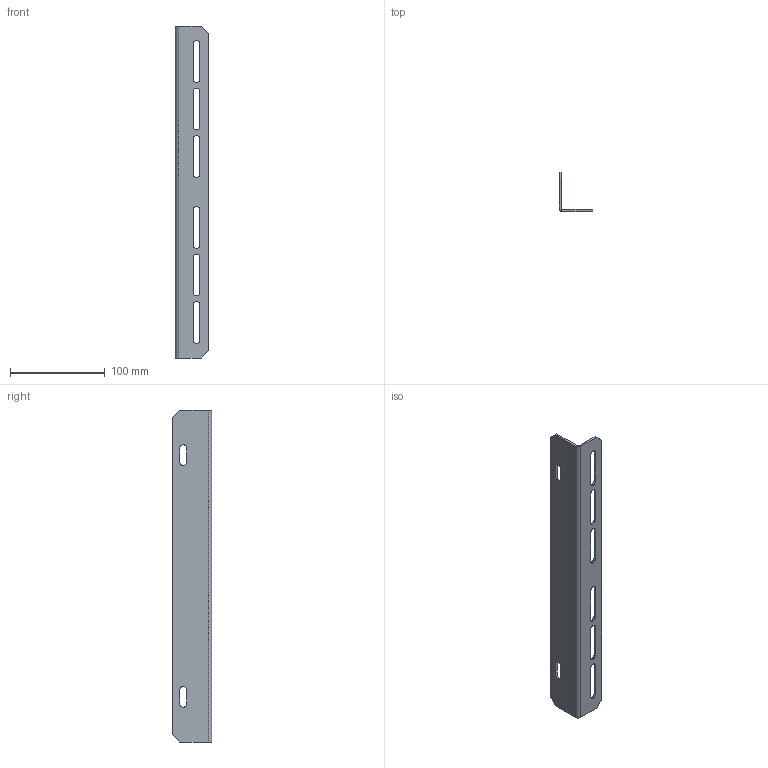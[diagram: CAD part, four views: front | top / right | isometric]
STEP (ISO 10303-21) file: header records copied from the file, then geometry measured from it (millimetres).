
FILE_DESCRIPTION (( 'STEP AP203' ), '1' );
FILE_NAME ('MG 35.03 IL Ðåéêà îïîðíàÿ.STEP', '2017-11-19T06:59:06', ( 'user' ), ( '' ), 'SwSTEP 2.0', 'SolidWorks 2012', '' );
FILE_SCHEMA (( 'CONFIG_CONTROL_DESIGN' ));
Length unit declared in the file: millimetre
Products named in the file (1): MG 35.03 IL Ðåéêà îïîðíàÿ
Bounding box: 35 x 41.5 x 350 mm (x, y, z)
Volume: 47011.8 mm3; surface area: 50028.8 mm2
Topology: 1 solids, 1 shells, 50 faces, 136 edges, 88 vertices
Faces by surface type: plane 32, cylinder 18
Entity records: 1681 total; most frequent: CARTESIAN_POINT 275, DIRECTION 274, ORIENTED_EDGE 272, EDGE_CURVE 136, VECTOR 100, LINE 100, VERTEX_POINT 88, AXIS2_PLACEMENT_3D 87
